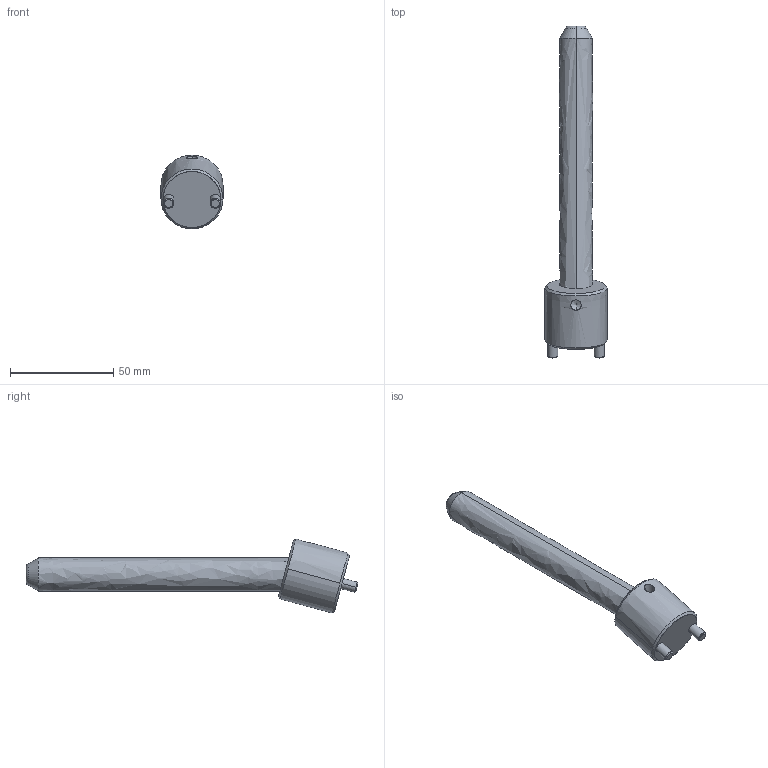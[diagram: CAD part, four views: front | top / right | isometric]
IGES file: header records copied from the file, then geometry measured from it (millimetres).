
Start section: START RECORD GO HERE.
Global section: file name: CI1516125.igs; native system: DASSAULT SYSTEMES CATIA V5 R20 - www.3ds.com; preprocessor: CATIA Version 5 Release 20 ; author: r.borello; organization: CFTORINO; date: 20190621.161355; units: millimetre
Bounding box: 30 x 160.58 x 35.71 mm (x, y, z)
Surface area: 13219 mm2 (no closed solid volume)
Topology: 0 solids, 0 shells, 39 faces, 162 edges, 160 vertices
Faces by surface type: revolution 32, plane 7
